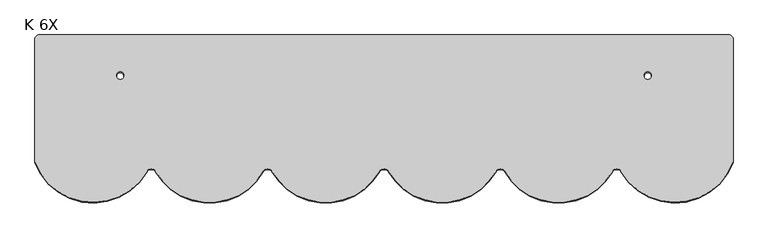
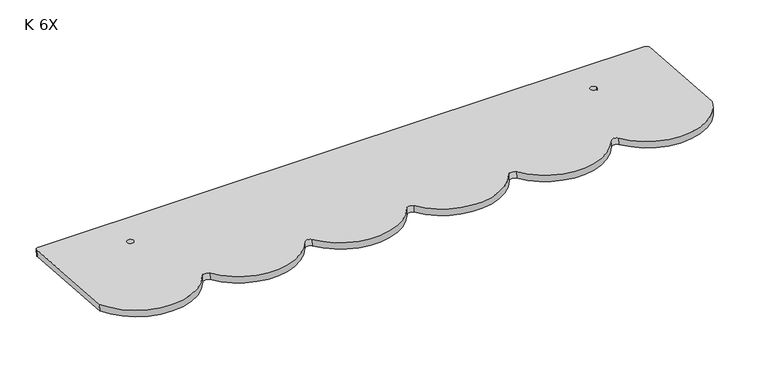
"""IFC4 building model written with IfcOpenShell, lengths in millimetres: proxy geometry, ML-PR-V-P-RED-N : K 6X."""

from ifc_helpers import new_model, si_unit, point, frame, frame_2d, origin, place, context, project, spatial, polyline, circle_curve, trimmed, segment, composite_curve, outline, extrude, source, transform, mapped, element, save


def k_6x_eb94dbcc(model_context):
    return source(origin(), model_context, "Body", "SweptSolid", [
        extrude(outline(composite_curve([segment(polyline([(180.0, 0.0), (720.0, 0.0)]), True, "CONTINUOUS"), segment(trimmed(circle_curve(frame_2d((720.0, -6.0000001)), 6.0), [point((720.0, 0.0))], [point((726.0, -6.0000001))], False, "CARTESIAN"), True, "CONTINUOUS"), segment(polyline([(726.0, -6.0000001), (726.0, -197.4065862)]), True, "CONTINUOUS"), segment(trimmed(circle_curve(frame_2d((636.0, -164.0)), 96.0), [point((726.0, -197.4065862))], [point((552.5197525, -211.4030408))], False, "CARTESIAN"), True, "CONTINUOUS"), segment(trimmed(circle_curve(frame_2d((546.0, -216.0390766)), 8.0), [point((552.5197525, -211.4030408))], [point((539.4802475, -211.4030408))], True, "CARTESIAN"), True, "CONTINUOUS"), segment(trimmed(circle_curve(frame_2d((456.0, -164.0)), 96.0), [point((539.4802475, -211.4030408))], [point((372.5197525, -211.4030408))], False, "CARTESIAN"), True, "CONTINUOUS"), segment(trimmed(circle_curve(frame_2d((366.0, -216.0390766)), 8.0), [point((372.5197525, -211.4030408))], [point((359.4802475, -211.4030408))], True, "CARTESIAN"), True, "CONTINUOUS"), segment(trimmed(circle_curve(frame_2d((276.0, -164.0)), 96.0), [point((359.4802475, -211.4030408))], [point((192.5197525, -211.4030408))], False, "CARTESIAN"), True, "CONTINUOUS"), segment(trimmed(circle_curve(frame_2d((186.0, -216.0390766)), 8.0), [point((192.5197525, -211.4030408))], [point((179.4802475, -211.4030408))], True, "CARTESIAN"), True, "CONTINUOUS"), segment(trimmed(circle_curve(frame_2d((96.0, -164.0)), 96.0), [point((179.4802475, -211.4030408))], [point((12.5197525, -211.4030408))], False, "CARTESIAN"), True, "CONTINUOUS"), segment(trimmed(circle_curve(frame_2d((6.0, -216.0390766)), 8.0), [point((12.5197525, -211.4030408))], [point((-0.5197525, -211.4030408))], True, "CARTESIAN"), True, "CONTINUOUS"), segment(trimmed(circle_curve(frame_2d((-84.0, -164.0)), 96.0), [point((-0.5197525, -211.4030408))], [point((-167.4802475, -211.4030408))], False, "CARTESIAN"), True, "CONTINUOUS"), segment(trimmed(circle_curve(frame_2d((-174.0, -216.0390766)), 8.0), [point((-167.4802475, -211.4030408))], [point((-180.5197525, -211.4030408))], True, "CARTESIAN"), True, "CONTINUOUS"), segment(trimmed(circle_curve(frame_2d((-264.0, -164.0)), 96.0), [point((-180.5197525, -211.4030408))], [point((-354.0, -197.4065862))], False, "CARTESIAN"), True, "CONTINUOUS"), segment(polyline([(-354.0, -197.4065862), (-354.0, -6.0000001)]), True, "CONTINUOUS"), segment(trimmed(circle_curve(frame_2d((-348.0, -6.0000001)), 6.0), [point((-354.0, -6.0000001))], [point((-348.0, 0.0))], False, "CARTESIAN"), True, "CONTINUOUS"), segment(polyline([(-348.0, 0.0), (180.0, 0.0)]), True, "CONTINUOUS")], self_intersect=False), holes=[composite_curve([segment(trimmed(circle_curve(frame_2d((594.0, -63.0)), 5.5), [point((599.5, -63.0))], [point((588.5, -63.0))], True, "CARTESIAN"), True, "CONTINUOUS"), segment(trimmed(circle_curve(frame_2d((594.0, -63.0)), 5.5), [point((588.5, -63.0))], [point((599.5, -63.0))], True, "CARTESIAN"), True, "CONTINUOUS")], self_intersect=False), composite_curve([segment(trimmed(circle_curve(frame_2d((-222.0, -63.0)), 5.5), [point((-227.5, -63.0))], [point((-216.5, -63.0))], True, "CARTESIAN"), True, "CONTINUOUS"), segment(trimmed(circle_curve(frame_2d((-222.0, -63.0)), 5.5), [point((-216.5, -63.0))], [point((-227.5, -63.0))], True, "CARTESIAN"), True, "CONTINUOUS")], self_intersect=False)]), frame((264.0, 41.1552075, -3.1527506), z_axis=(0.0, 0.07788766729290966, 0.9969621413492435), x_axis=(1.0, 0.0, 0.0)), (0.0, 0.0, 1.0), 11.5),
    ])


if __name__ == "__main__":
    model = new_model("IFC4")
    model_context = context("Model", 3, world=origin())
    ifc_project = project(units=[si_unit("LENGTHUNIT", "METRE", prefix="MILLI")], contexts=[model_context])
    site = spatial("IfcSite", under=ifc_project)
    building = spatial("IfcBuilding", under=site)
    placement = place(None, origin())
    k_6x_shape = k_6x_eb94dbcc(model_context)
    element("IfcBuildingElementProxy", 1, Name="ML-PR-V-P-RED-N : K 6X", ObjectType="ML-PR-V-P-RED-N : K 6X", at=placement, inside=building, context=model_context, shape_type="MappedRepresentation", body=[
        mapped(k_6x_shape, transform((0.0, 0.0, 0.0), x_axis=(1.0, 0.0, 0.0), y_axis=(0.0, 1.0, 0.0), z_axis=(0.0, 0.0, 1.0))),
    ])
    save(model, "model.ifc")
